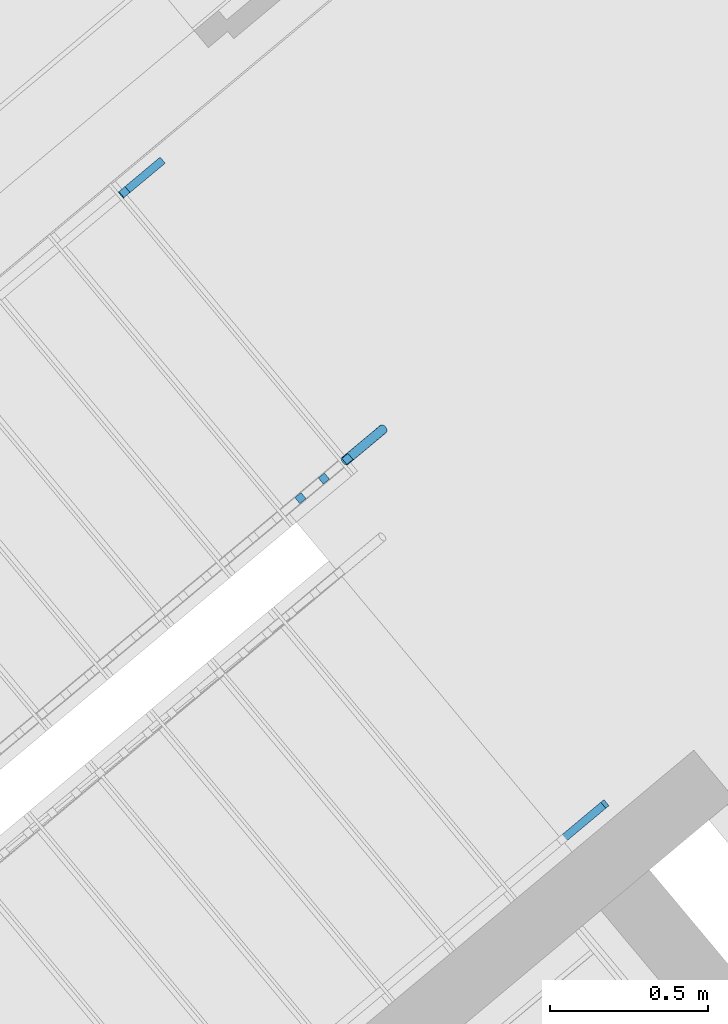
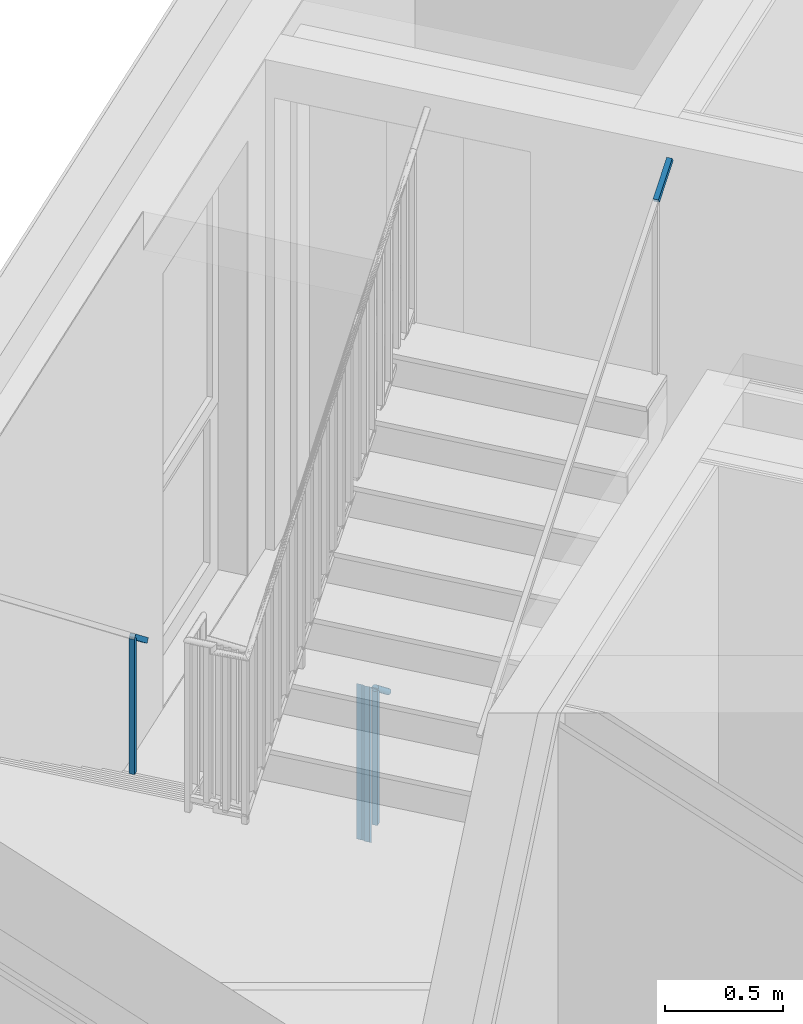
# One storey, part 45 of 53: 7 building element parts, 3 elements without a shape of their own.
"""IFC4 building model written with IfcOpenShell, lengths in metres."""

from ifc_helpers import new_model, entity, si_unit, converted_unit, derived_unit, direction, frame, origin_with_axes, place, context, subcontext, project, spatial, polygons, material, type_object, element, aggregate, save


model = new_model("IFC4")

# Units and contexts
model_context = context("Model", 3, precision=1e-05, world=origin_with_axes(), true_north=direction((0.0, 1.0)))
body_context = subcontext(model_context, "Body", "Model", "MODEL_VIEW")
ifc_project = project(units=[si_unit("LENGTHUNIT", "METRE"), si_unit("AREAUNIT", "SQUARE_METRE"), si_unit("VOLUMEUNIT", "CUBIC_METRE"), converted_unit("PLANEANGLEUNIT", "DEGREE", entity("IfcPlaneAngleMeasure", 0.0174532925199), si_unit("PLANEANGLEUNIT", "RADIAN"), dimensions=[0, 0, 0, 0, 0, 0, 0]), converted_unit("TIMEUNIT", "Year", entity("IfcTimeMeasure", 31556926.0), si_unit("TIMEUNIT", "SECOND"), dimensions=[0, 0, 1, 0, 0, 0, 0]), si_unit("MASSUNIT", "GRAM", prefix="KILO"), si_unit("THERMODYNAMICTEMPERATUREUNIT", "DEGREE_CELSIUS"), si_unit("LUMINOUSINTENSITYUNIT", "LUMEN"), si_unit("ENERGYUNIT", "JOULE", prefix="MEGA"), derived_unit("THERMALCONDUCTANCEUNIT", [(si_unit("POWERUNIT", "WATT"), 1), (si_unit("LENGTHUNIT", "METRE"), -1), (si_unit("THERMODYNAMICTEMPERATUREUNIT", "KELVIN"), -1)]), derived_unit("SPECIFICHEATCAPACITYUNIT", [(si_unit("ENERGYUNIT", "JOULE"), 1), (si_unit("MASSUNIT", "GRAM", prefix="KILO"), -1), (si_unit("THERMODYNAMICTEMPERATUREUNIT", "KELVIN"), -1)]), derived_unit("MASSDENSITYUNIT", [(si_unit("MASSUNIT", "GRAM", prefix="KILO"), 1), (si_unit("VOLUMEUNIT", "CUBIC_METRE"), -1)])], contexts=[model_context])

# Site, building, storey, space
site_placement = place(None, frame((-0.00153261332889, -0.00661245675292, 0.0), z_axis=(0.0, 0.0, 1.0), x_axis=(1.0, 0.0, 0.0)))
site = spatial("IfcSite", under=ifc_project, at=site_placement, Name="Gelände", CompositionType="ELEMENT")
building_placement = place(site_placement, origin_with_axes())
building = spatial("IfcBuilding", under=site, at=building_placement, Name="Gebäude", CompositionType="ELEMENT")
storey_placement = place(building_placement, frame((0.0, 0.0, 2.74), z_axis=(0.0, 0.0, 1.0), x_axis=(1.0, 0.0, 0.0)))
storey = spatial("IfcBuildingStorey", under=building, at=storey_placement, Name="OG1", CompositionType="ELEMENT", Elevation=2.74)
space_placement = place(storey_placement, frame((0.280300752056, 22.6307267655, 0.22), z_axis=(0.0, 0.0, 1.0), x_axis=(-0.641244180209, 0.767336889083, 0.0)))
space = spatial("IfcSpace", under=storey, at=space_placement, CompositionType="ELEMENT", PredefinedType="NOTDEFINED")

# Railing, building element parts
railing_type = type_object("IfcRailingType", Name="Geländerart", PredefinedType="NOTDEFINED")
railing_1_placement = place(space_placement, frame((1.35982515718, -0.251690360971, -0.17), z_axis=(0.0, 0.0, 1.0), x_axis=(-0.641244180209, -0.767336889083, 0.0)))
railing_1 = element("IfcRailing", 1, at=railing_1_placement, inside=space, type_object=railing_type, Name="Geländer - 001", PredefinedType="NOTDEFINED")
ifc_material = material(Name="BEKLEIDUNG")
building_element_part_1_placement = place(railing_1_placement, origin_with_axes())
building_element_part_1 = element("IfcBuildingElementPart", 2, at=building_element_part_1_placement, material=ifc_material, Name="BEKLEIDUNG", PredefinedType="NOTDEFINED", context=body_context, shape_type="Tessellation", body=[
    polygons([(-0.0496656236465, 0.0399477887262, 0.177058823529), (-0.0336363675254, 0.0207628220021, 0.177058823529), (-0.0336363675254, 0.0207628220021, 0.889746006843), (-0.0496656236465, 0.0399477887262, 0.889746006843), (-0.0304806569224, 0.0559770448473, 0.177058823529), (-0.0144514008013, 0.0367920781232, 0.177058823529), (-0.0144514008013, 0.0367920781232, 0.870253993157), (-0.0304806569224, 0.0559770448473, 0.870253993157)], [[[1, 2, 3, 4]], [[1, 5, 6, 2]], [[2, 6, 7, 3]], [[4, 3, 7, 8]], [[5, 1, 4, 8]], [[6, 5, 8, 7]]], closed=True),
])
building_element_part_2_placement = place(railing_1_placement, origin_with_axes())
building_element_part_2 = element("IfcBuildingElementPart", 3, at=building_element_part_2_placement, material=ifc_material, Name="BEKLEIDUNG", PredefinedType="NOTDEFINED", context=body_context, shape_type="Tessellation", body=[
    polygons([(-0.0487538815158, 0.0439673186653, 0.88817063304), (-0.0473787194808, 0.0448193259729, 0.890224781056), (0.073659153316, 0.145947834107, 0.767249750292), (0.0722839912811, 0.1450958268, 0.765195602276), (-0.0498368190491, 0.0427655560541, 0.886116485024), (-0.0505946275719, 0.0412505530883, 0.884124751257), (-0.0510042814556, 0.0394683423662, 0.88225594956), (-0.0510533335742, 0.0374730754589, 0.880566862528), (-0.050740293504, 0.0353253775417, 0.879108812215), (-0.0500746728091, 0.0330905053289, 0.877926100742), (-0.0490766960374, 0.030836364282, 0.877054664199), (-0.0477766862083, 0.0286314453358, 0.876520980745), (-0.0462141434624, 0.026542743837, 0.87634126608), (-0.0444365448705, 0.0246337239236, 0.876520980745), (-0.0424979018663, 0.0229623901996, 0.877054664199), (-0.0404571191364, 0.0215795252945, 0.877926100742), (-0.0383762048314, 0.0205271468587, 0.879108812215), (-0.0363183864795, 0.0198372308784, 0.880566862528), (-0.03434618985, 0.0195307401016, 0.88225594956), (-0.0325195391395, 0.0196169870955, 0.884124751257), (-0.0308939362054, 0.0200933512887, 0.886116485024), (-0.0295187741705, 0.0209453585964, 0.88817063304), (-0.0284358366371, 0.0221471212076, 0.890224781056), (-0.0276780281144, 0.0236621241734, 0.892216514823), (-0.0272683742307, 0.0254443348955, 0.89408531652), (-0.0272193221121, 0.0274396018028, 0.895774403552), (-0.0275323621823, 0.02958729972, 0.897232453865), (-0.0281979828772, 0.0318221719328, 0.898415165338), (-0.0291959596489, 0.0340763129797, 0.899286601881), (-0.030495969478, 0.0362812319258, 0.899820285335), (-0.0320585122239, 0.0383699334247, 0.9), (-0.0338361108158, 0.0402789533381, 0.899820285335), (-0.03577475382, 0.0419502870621, 0.899286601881), (-0.0378155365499, 0.0433331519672, 0.898415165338), (-0.0398964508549, 0.044385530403, 0.897232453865), (-0.0419542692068, 0.0450754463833, 0.895774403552), (-0.0439264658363, 0.04538193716, 0.89408531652), (-0.0457531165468, 0.0452956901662, 0.892216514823), (0.0752847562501, 0.146424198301, 0.76924148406), (0.0771114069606, 0.146510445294, 0.771110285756), (0.0790836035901, 0.146203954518, 0.772799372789), (0.081141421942, 0.145514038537, 0.774257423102), (0.083222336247, 0.144461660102, 0.775440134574), (0.0852631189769, 0.143078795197, 0.776311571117), (0.0872017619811, 0.141407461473, 0.776845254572), (0.088979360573, 0.139498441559, 0.777024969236), (0.0905419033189, 0.13740974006, 0.776845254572), (0.091841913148, 0.135204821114, 0.776311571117), (0.0928398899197, 0.132950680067, 0.775440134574), (0.0935055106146, 0.130715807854, 0.774257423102), (0.0938185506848, 0.128568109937, 0.772799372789), (0.0937694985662, 0.12657284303, 0.771110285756), (0.0933598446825, 0.124790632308, 0.76924148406), (0.0926020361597, 0.123275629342, 0.767249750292), (0.0915190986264, 0.122073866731, 0.765195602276), (0.0901439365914, 0.121221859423, 0.763141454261), (0.0885183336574, 0.12074549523, 0.761149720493), (0.0866916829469, 0.120659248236, 0.759280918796), (0.0847194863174, 0.120965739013, 0.757591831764), (0.0826616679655, 0.121655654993, 0.756133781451), (0.0805807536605, 0.122708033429, 0.754951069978), (0.0785399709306, 0.124090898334, 0.754079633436), (0.0766013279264, 0.125762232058, 0.753545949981), (0.0748237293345, 0.127671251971, 0.753366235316), (0.0732611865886, 0.12975995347, 0.753545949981), (0.0719611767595, 0.131964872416, 0.754079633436), (0.0709631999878, 0.134219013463, 0.754951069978), (0.0702975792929, 0.136453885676, 0.756133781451), (0.0699845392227, 0.138601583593, 0.757591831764), (0.0700335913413, 0.140596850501, 0.759280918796), (0.070443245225, 0.142379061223, 0.761149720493), (0.0712010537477, 0.143894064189, 0.763141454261)], [[[1, 2, 3, 4]], [[1, 5, 6, 7, 8, 9, 10, 11, 12, 13, 14, 15, 16, 17, 18, 19, 20, 21, 22, 23, 24, 25, 26, 27, 28, 29, 30, 31, 32, 33, 34, 35, 36, 37, 38, 2]], [[2, 38, 39, 3]], [[4, 3, 39, 40, 41, 42, 43, 44, 45, 46, 47, 48, 49, 50, 51, 52, 53, 54, 55, 56, 57, 58, 59, 60, 61, 62, 63, 64, 65, 66, 67, 68, 69, 70, 71, 72]], [[5, 1, 4, 72]], [[6, 5, 72, 71]], [[7, 6, 71, 70]], [[8, 7, 70, 69]], [[9, 8, 69, 68]], [[10, 9, 68, 67]], [[11, 10, 67, 66]], [[12, 11, 66, 65]], [[13, 12, 65, 64]], [[14, 13, 64, 63]], [[15, 14, 63, 62]], [[16, 15, 62, 61]], [[17, 16, 61, 60]], [[18, 17, 60, 59]], [[19, 18, 59, 58]], [[20, 19, 58, 57]], [[21, 20, 57, 56]], [[22, 21, 56, 55]], [[23, 22, 55, 54]], [[24, 23, 54, 53]], [[25, 24, 53, 52]], [[26, 25, 52, 51]], [[27, 26, 51, 50]], [[28, 27, 50, 49]], [[29, 28, 49, 48]], [[30, 29, 48, 47]], [[31, 30, 47, 46]], [[32, 31, 46, 45]], [[33, 32, 45, 44]], [[34, 33, 44, 43]], [[35, 34, 43, 42]], [[36, 35, 42, 41]], [[37, 36, 41, 40]], [[38, 37, 40, 39]]], closed=True),
])
building_element_part_3_placement = place(railing_1_placement, origin_with_axes())
building_element_part_3 = element("IfcBuildingElementPart", 4, at=building_element_part_3_placement, material=ifc_material, Name="BEKLEIDUNG", PredefinedType="NOTDEFINED", context=body_context, shape_type="Tessellation", body=[
    polygons([(-0.123876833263, -0.0220565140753, 0.155144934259), (-0.107847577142, -0.0412414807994, 0.155144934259), (-0.107847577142, -0.0412414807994, 0.962644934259), (-0.123876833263, -0.0220565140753, 0.962644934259), (-0.104691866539, -0.00602725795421, 0.135652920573), (-0.0886626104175, -0.0252122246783, 0.135652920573), (-0.0886626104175, -0.0252122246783, 0.943152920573), (-0.104691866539, -0.00602725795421, 0.943152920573)], [[[1, 2, 3, 4]], [[1, 5, 6, 2]], [[2, 6, 7, 3]], [[4, 3, 7, 8]], [[5, 1, 4, 8]], [[6, 5, 8, 7]]], closed=True),
])
building_element_part_4_placement = place(railing_1_placement, origin_with_axes())
building_element_part_4 = element("IfcBuildingElementPart", 5, at=building_element_part_4_placement, material=ifc_material, Name="BEKLEIDUNG", PredefinedType="NOTDEFINED", context=body_context, shape_type="Tessellation", body=[
    polygons([(-0.198088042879, -0.0840608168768, 0.230543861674), (-0.182058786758, -0.103245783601, 0.230543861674), (-0.182058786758, -0.103245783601, 1.03804386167), (-0.198088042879, -0.0840608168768, 1.03804386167), (-0.178903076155, -0.0680315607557, 0.211051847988), (-0.162873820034, -0.0872165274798, 0.211051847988), (-0.162873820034, -0.0872165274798, 1.01855184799), (-0.178903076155, -0.0680315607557, 1.01855184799)], [[[1, 2, 3, 4]], [[1, 5, 6, 2]], [[2, 6, 7, 3]], [[4, 3, 7, 8]], [[5, 1, 4, 8]], [[6, 5, 8, 7]]], closed=True),
])
aggregate(railing_1, [building_element_part_1, building_element_part_2, building_element_part_3, building_element_part_4])

# Railing, building element part
railing_2_placement = place(space_placement, frame((9.09464852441e-05, 2.01352288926, 1.60058823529), z_axis=(0.0, 0.0, 1.0), x_axis=(-0.641244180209, -0.767336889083, 0.0)))
railing_2 = element("IfcRailing", 6, at=railing_2_placement, inside=space, type_object=railing_type, Name="Geländer - 002", PredefinedType="NOTDEFINED")
building_element_part_5_placement = place(railing_2_placement, origin_with_axes())
building_element_part_5 = element("IfcBuildingElementPart", 7, at=building_element_part_5_placement, material=ifc_material, Name="BEKLEIDUNG", PredefinedType="NOTDEFINED", context=body_context, shape_type="Tessellation", body=[
    polygons([(1.52106335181, 1.31986626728, 2.13941176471), (1.53111960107, 1.32826925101, 2.11812182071), (1.66181700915, 1.43747976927, 2.22296098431), (1.65176075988, 1.42907678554, 2.24425092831), (1.50503311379, 1.33905041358, 2.13941176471), (1.51508936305, 1.34745339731, 2.11812182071), (1.64578677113, 1.45666391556, 2.22296098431), (1.63573052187, 1.44826093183, 2.24425092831)], [[[1, 2, 3, 4]], [[1, 5, 6, 2]], [[2, 6, 7, 3]], [[4, 3, 7, 8]], [[5, 1, 4, 8]], [[6, 5, 8, 7]]], closed=True),
])
aggregate(railing_2, [building_element_part_5])

# Railing, building element parts
railing_3_placement = place(space_placement, frame((2.55982515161, -0.251805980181, -0.17), z_axis=(0.0, 0.0, 1.0), x_axis=(-0.641244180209, -0.767336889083, 0.0)))
railing_3 = element("IfcRailing", 8, at=railing_3_placement, inside=space, type_object=railing_type, Name="Geländer - 001", PredefinedType="NOTDEFINED")
building_element_part_6_placement = place(railing_3_placement, origin_with_axes())
building_element_part_6 = element("IfcBuildingElementPart", 9, at=building_element_part_6_placement, material=ifc_material, Name="BEKLEIDUNG", PredefinedType="NOTDEFINED", context=body_context, shape_type="Tessellation", body=[
    polygons([(0.0144514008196, -0.0367920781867, 0.177058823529), (0.0304806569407, -0.0559770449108, 0.177058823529), (0.0304806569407, -0.0559770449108, 0.88977053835), (0.0144514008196, -0.0367920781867, 0.88977053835), (0.0336363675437, -0.0207628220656, 0.177058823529), (0.0496656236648, -0.0399477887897, 0.177058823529), (0.0496656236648, -0.0399477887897, 0.87022946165), (0.0336363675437, -0.0207628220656, 0.87022946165)], [[[1, 2, 3, 4]], [[1, 5, 6, 2]], [[2, 6, 7, 3]], [[4, 3, 7, 8]], [[5, 1, 4, 8]], [[6, 5, 8, 7]]], closed=True),
])
building_element_part_7_placement = place(railing_3_placement, origin_with_axes())
building_element_part_7 = element("IfcBuildingElementPart", 10, at=building_element_part_7_placement, material=ifc_material, Name="BEKLEIDUNG", PredefinedType="NOTDEFINED", context=body_context, shape_type="Tessellation", body=[
    polygons([(0.0400731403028, -0.0479624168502, 0.9), (0.0282583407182, -0.0578338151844, 0.880303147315), (0.149181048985, 0.0431984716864, 0.757135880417), (0.16099584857, 0.0530698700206, 0.776832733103), (0.0240438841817, -0.0287774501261, 0.9), (0.0122290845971, -0.0386488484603, 0.880303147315), (0.133151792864, 0.0623834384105, 0.757135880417), (0.144966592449, 0.0722548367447, 0.776832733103)], [[[1, 2, 3, 4]], [[1, 5, 6, 2]], [[2, 6, 7, 3]], [[4, 3, 7, 8]], [[5, 1, 4, 8]], [[6, 5, 8, 7]]], closed=True),
])
aggregate(railing_3, [building_element_part_6, building_element_part_7])

save(model, "model.ifc")
